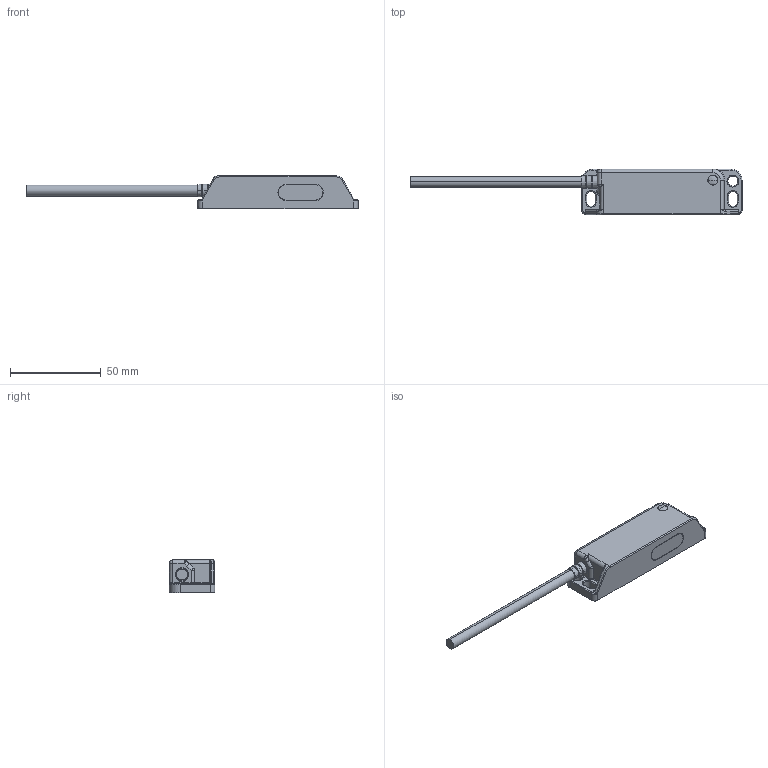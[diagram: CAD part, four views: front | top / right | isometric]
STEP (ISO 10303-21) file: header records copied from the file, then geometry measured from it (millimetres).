
FILE_DESCRIPTION (( 'STEP AP203' ), '1' );
FILE_NAME ('406-LMF (switch) (STEP format).STEP', '2017-02-24T14:26:20', ( '' ), ( '' ), 'SwSTEP 2.0', 'SolidWorks 2015', '' );
FILE_SCHEMA (( 'CONFIG_CONTROL_DESIGN' ));
Length unit declared in the file: millimetre
Products named in the file (1): 406-LMF (switch) (STEP format)
Bounding box: 182.5 x 25 x 18.4 mm (x, y, z)
Volume: 17799.9 mm3; surface area: 17967 mm2
Topology: 8 solids, 8 shells, 661 faces, 1579 edges, 955 vertices
Faces by surface type: plane 209, cylinder 208, bspline 105, torus 95, sphere 22, cone 22
Entity records: 24598 total; most frequent: CARTESIAN_POINT 9679, ORIENTED_EDGE 3108, DIRECTION 3026, EDGE_CURVE 1554, AXIS2_PLACEMENT_3D 1140, VERTEX_POINT 955, LINE 746, VECTOR 746
